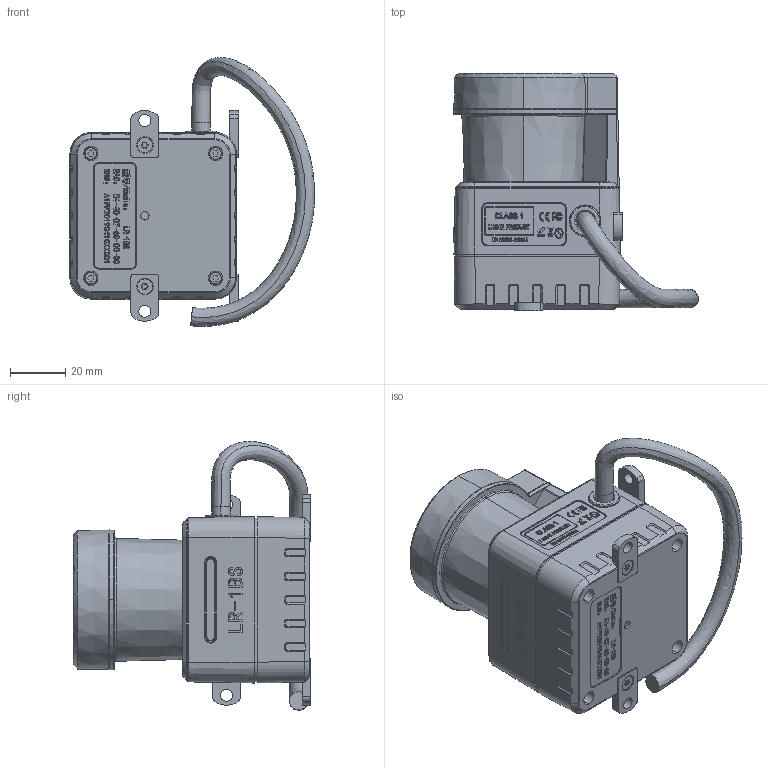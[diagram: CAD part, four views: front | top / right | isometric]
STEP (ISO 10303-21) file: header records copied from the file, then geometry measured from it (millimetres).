
FILE_DESCRIPTION (( 'STEP AP214' ), '1' );
FILE_NAME ('LR-1BS2 翋儂-CT-2020.3.17.STEP', '2020-03-17T07:49:34', ( 'win7' ), ( '' ), 'SwSTEP 2.0', 'SolidWorks 2018', '' );
FILE_SCHEMA (( 'AUTOMOTIVE_DESIGN' ));
Length unit declared in the file: millimetre
Products named in the file (1): LR-1BS2 翋儂-CT-2020.3.17
Bounding box: 88.4 x 85.7 x 96.95 mm (x, y, z)
Volume: 240502.7 mm3; surface area: 55981.7 mm2
Topology: 29 solids, 31 shells, 2945 faces, 7643 edges, 4996 vertices
Faces by surface type: plane 1503, bspline 768, cylinder 450, cone 157, torus 67
Entity records: 178234 total; most frequent: CARTESIAN_POINT 78615, ORIENTED_EDGE 15222, DIRECTION 11230, EDGE_CURVE 7611, VERTEX_POINT 4996, LINE 4742, VECTOR 4742, AXIS2_PLACEMENT_3D 3244
